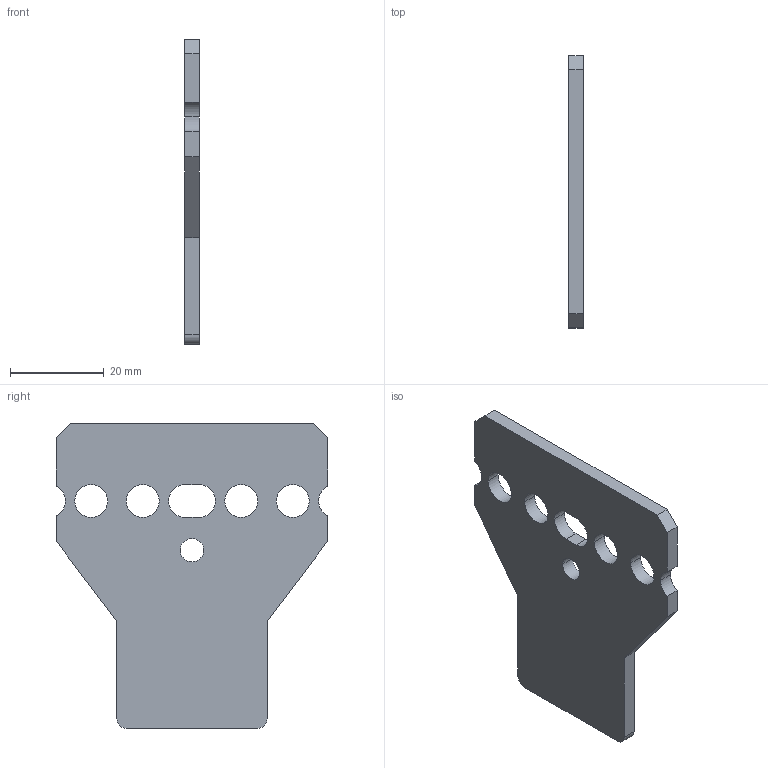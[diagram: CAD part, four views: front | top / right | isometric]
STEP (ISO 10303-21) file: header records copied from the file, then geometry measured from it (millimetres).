
FILE_DESCRIPTION (( 'STEP AP214' ), '1' );
FILE_NAME ('NOVA-Pro_Kunststoffadapter_3mm_links.step', '2010-09-29T09:37:26', ( 'grass' ), ( '' ), 'SwSTEP 2.0', 'SolidWorks 2010', '' );
FILE_SCHEMA (( 'AUTOMOTIVE_DESIGN' ));
Length unit declared in the file: millimetre
Products named in the file (1): NOVA-Pro_Kunststoffadapter_3mm_links
Bounding box: 3 x 58 x 65 mm (x, y, z)
Volume: 8077 mm3; surface area: 6459.5 mm2
Topology: 1 solids, 1 shells, 34 faces, 96 edges, 64 vertices
Faces by surface type: cylinder 18, plane 16
Entity records: 1174 total; most frequent: DIRECTION 202, CARTESIAN_POINT 195, ORIENTED_EDGE 192, EDGE_CURVE 96, AXIS2_PLACEMENT_3D 71, VERTEX_POINT 64, LINE 60, VECTOR 60
